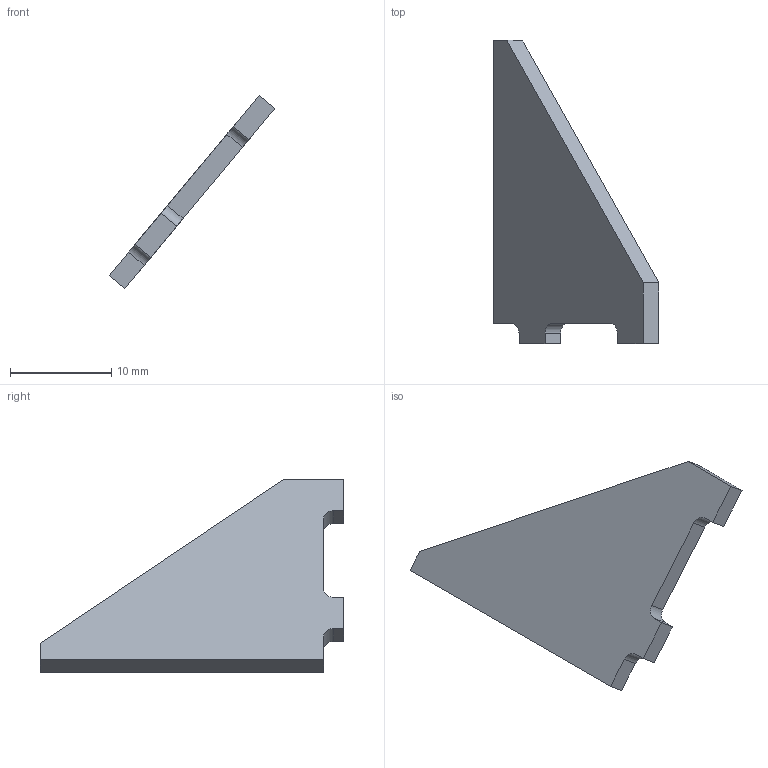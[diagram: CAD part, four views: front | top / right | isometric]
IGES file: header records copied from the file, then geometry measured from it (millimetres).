
Start section: START RECORD GO HERE.
Global section: file name: FR_10001_8 (Frame Brake).igs; native system: IBM CATIA IGES - CATIA Version 5 Release 19 ; preprocessor: CATIA Version 5 Release 19 ; author: jacqu; organization: ASUS-TUF-JACQUE; date: 20200226.092049; units: millimetre
Bounding box: 16.36 x 30 x 19.07 mm (x, y, z)
Surface area: 1016.4 mm2 (no closed solid volume)
Topology: 0 solids, 0 shells, 16 faces, 88 edges, 88 vertices
Faces by surface type: plane 13, revolution 3
